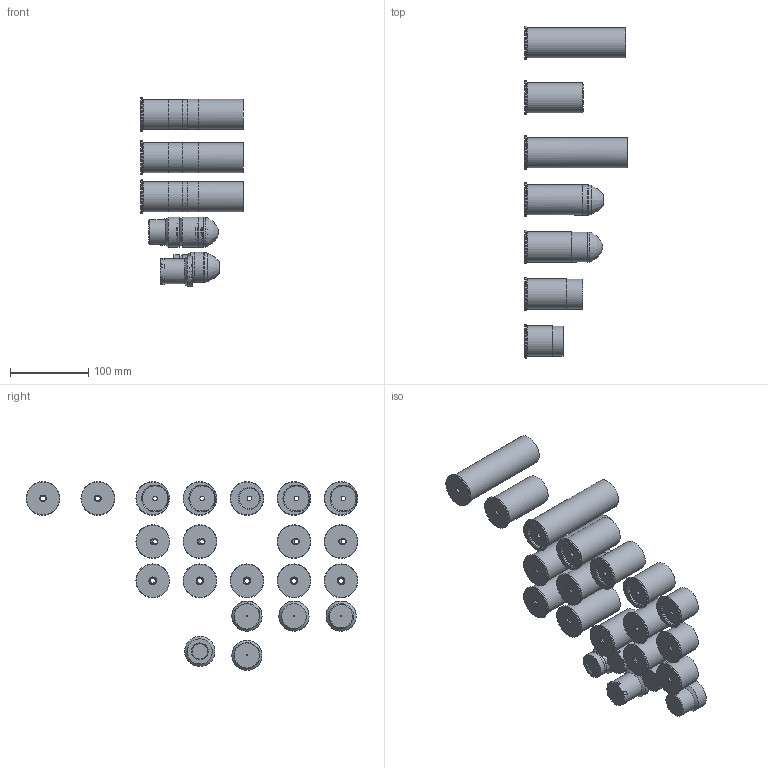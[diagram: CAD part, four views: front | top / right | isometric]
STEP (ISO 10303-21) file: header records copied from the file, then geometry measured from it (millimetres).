
FILE_DESCRIPTION(/* description */ (''),/* implementation_level */ '2;1');
FILE_NAME(/* name */ 'C:/Users/Danny Meatballs PC/Downloads/37mm rounds sorted'' v12.step',/* time_stamp */ '2022-07-18T21:21:21-04:00',/* author */ (''),/* organization */ (''),/* preprocessor_version */ 'ST-DEVELOPER v19',/* originating_system */ 'Autodesk Translation Framework v11.7.0.108',/* authorisation */ '');
FILE_SCHEMA (('AUTOMOTIVE_DESIGN { 1 0 10303 214 3 1 1 }'));
Length unit declared in the file: millimetre
Products named in the file (24): 37mm rounds sorted'; 2.5in Shell Rifled (Ramset & Washer); 2.5in Shell Rifled (Ramset); 2.5in Shell Rifled (209); 2in Shell (Ramset & Washer).; 2in Shell (Ramset); 2in Shell (209); 1.5in Shell (Ramset & Washer); 1.5in Shell (Ramset); 1.5in Shell (209); Short Payload; Medium Payload; Rifled Payload; Nose Come; Caska's Chalk Round (Zipdic shell compatable); Rifled Rifled Payload (Short); 3in Shell (Ramset); 3in Shell (Ramset & Washer).; 3in Shell (209); 5in Shell (Ramset & Washer); 5in Shell (Ramset) (1); 5in Shell (209); 3in Case (Pyro); 5in Case (Pyro)
Assembly tree (22 placements, depth 2):
  37mm rounds sorted'
    2.5in Shell Rifled (Ramset & Washer)
    2.5in Shell Rifled (Ramset)
    2.5in Shell Rifled (209)
    2in Shell (Ramset & Washer).
    2in Shell (Ramset)
    2in Shell (209)
    1.5in Shell (Ramset & Washer)
    1.5in Shell (Ramset)
    1.5in Shell (209)
    Short Payload
    Medium Payload
    Rifled Payload
    Nose Come
    Rifled Rifled Payload (Short)
    3in Shell (Ramset)
    3in Shell (Ramset & Washer).
    3in Shell (209)
    5in Shell (Ramset & Washer)
    5in Shell (Ramset) (1)
    5in Shell (209)
    3in Case (Pyro)
    5in Case (Pyro)
  Caska's Chalk Round (Zipdic shell compatable)
Bounding box: 130.56 x 422.93 x 240.64 mm (x, y, z)
Volume: 725483.9 mm3; surface area: 336907 mm2
Topology: 22 solids, 22 shells, 483 faces, 1094 edges, 703 vertices
Faces by surface type: bspline 133, cylinder 129, plane 104, torus 60, cone 57
Full cylindrical faces by diameter (mm): 1.5 x4, 5.8 x9, 6.223 x2, 6.3 x5, 7.874 x2, 8.8 x5, 26 x1, 27.6 x1, 30 x10, 31.6 x4, 32 x14, 32.2 x4, 32.793 x2, 34.993 x1, 35 x3, 35.242 x3, 38.011 x1, 38.35 x21, 38.5 x1, 42.93 x16
Entity records: 29318 total; most frequent: CARTESIAN_POINT 18308, ORIENTED_EDGE 2188, DIRECTION 2021, EDGE_CURVE 1094, AXIS2_PLACEMENT_3D 912, VERTEX_POINT 703, EDGE_LOOP 571, CIRCLE 515
